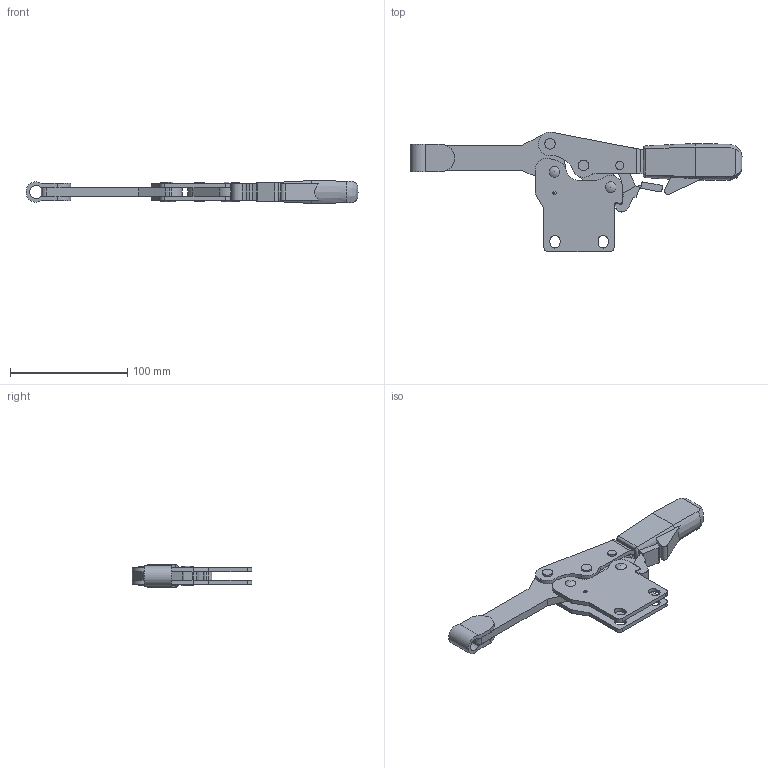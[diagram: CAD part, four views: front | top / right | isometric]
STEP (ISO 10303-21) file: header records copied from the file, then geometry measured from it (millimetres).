
FILE_DESCRIPTION( ( 'STEP AP203' ), '1' );
FILE_NAME( 'C:/Temp/Ganter_Step_05_03_2020/data/2_4/gn_820_4/gn_820_4_st/Toggle clamp GN 820.4-355-PL (closed).stp', '2020-03-13T05:53:36', ( 'License CC BY-ND 4.0' ), ( 'CADENAS' ), ' ', 'PARTsolutions', ' ' );
FILE_SCHEMA( ( 'CONFIG_CONTROL_DESIGN' ) );
Length unit declared in the file: millimetre
Products named in the file (6): Toggle clamp GN 820.4-355-PL (closed); _Toggle clamp GN 820.4-355-PL-1; _Toggle clamp GN 820.4-355-PL (1)-2; _Toggle clamp GN 820.4-355-PL (1)-3; _Toggle clamp GN 820.4-355-PL (1)-4; _Toggle clamp GN 820.4-355-PL-5
Assembly tree (5 placements, depth 2):
  Toggle clamp GN 820.4-355-PL (closed)
    _Toggle clamp GN 820.4-355-PL-1
    _Toggle clamp GN 820.4-355-PL (1)-2
    _Toggle clamp GN 820.4-355-PL (1)-3
    _Toggle clamp GN 820.4-355-PL (1)-4
    _Toggle clamp GN 820.4-355-PL-5
Bounding box: 283.17 x 101.99 x 19.5 mm (x, y, z)
Volume: 130200 mm3; surface area: 55788.9 mm2
Topology: 5 solids, 5 shells, 212 faces, 562 edges, 374 vertices
Faces by surface type: plane 110, cylinder 88, torus 4, bspline 4, cone 4, sphere 2
Full cylindrical faces by diameter (mm): 1.4 x3, 6 x3, 7 x6, 9 x10
Entity records: 6844 total; most frequent: CARTESIAN_POINT 1394, DIRECTION 1119, ORIENTED_EDGE 1036, EDGE_CURVE 518, AXIS2_PLACEMENT_3D 411, VERTEX_POINT 360, LINE 297, VECTOR 297
